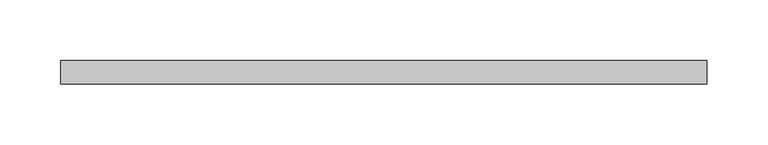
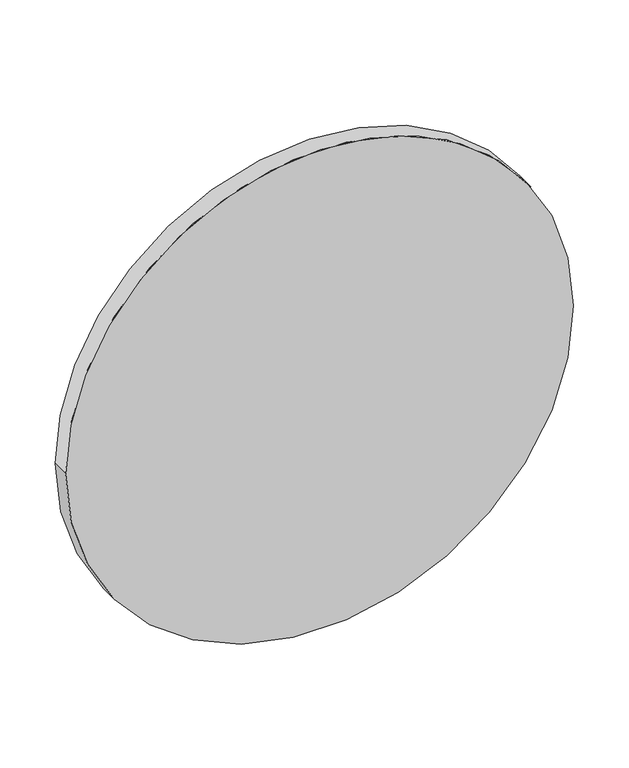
"""IFC4 building model written with IfcOpenShell, lengths in millimetres: proxy geometry, CAMBRIDGE^TABLE 1_60 ROUND-BASE TOP."""

from ifc_helpers import new_model, si_unit, point, frame, origin, origin_2d, place, context, project, spatial, circle_curve, trimmed, segment, composite_curve, outline, extrude, source, transform, mapped, element, save


def generic_models_e8c6ea60(model_context):
    return source(origin(), model_context, "Body", "SweptSolid", [
        extrude(outline(composite_curve([segment(trimmed(circle_curve(origin_2d(), 265.1125), [point((0.0, 265.1125))], [point((0.0, -265.1125))], False, "CARTESIAN"), True, "CONTINUOUS"), segment(trimmed(circle_curve(origin_2d(), 265.1125), [point((0.0, -265.1125))], [point((0.0, 265.1125))], False, "CARTESIAN"), True, "CONTINUOUS")], self_intersect=False)), frame((0.0, -38.1, 0.0), z_axis=(0.0, 1.0, 0.0), x_axis=(0.0, 0.0, 1.0)), (0.0, 0.0, 1.0), 19.05),
    ])


if __name__ == "__main__":
    model = new_model("IFC4")
    model_context = context("Model", 3, world=origin())
    ifc_project = project(units=[si_unit("LENGTHUNIT", "METRE", prefix="MILLI")], contexts=[model_context])
    site = spatial("IfcSite", under=ifc_project)
    building = spatial("IfcBuilding", under=site)
    placement = place(None, origin())
    generic_models_shape = generic_models_e8c6ea60(model_context)
    element("IfcBuildingElementProxy", 1, Name="CAMBRIDGE^TABLE 1_60 ROUND-BASE TOP", ObjectType="CAMBRIDGE^TABLE 1_60 ROUND-BASE TOP", at=placement, inside=building, context=model_context, shape_type="MappedRepresentation", body=[
        mapped(generic_models_shape, transform((0.0, 0.0, 0.0), x_axis=(1.0, 0.0, 0.0), y_axis=(0.0, 1.0, 0.0), z_axis=(0.0, 0.0, 1.0))),
    ])
    save(model, "model.ifc")
